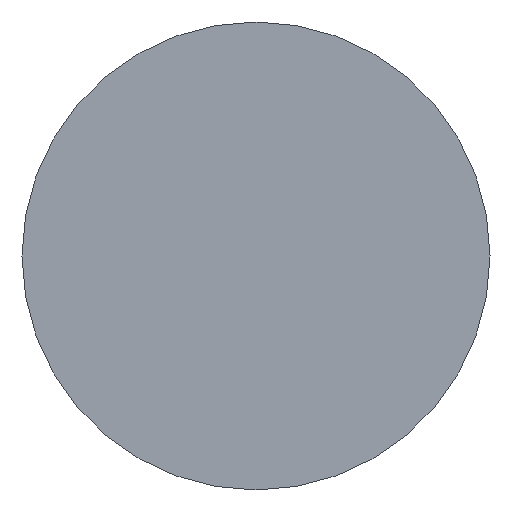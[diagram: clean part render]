
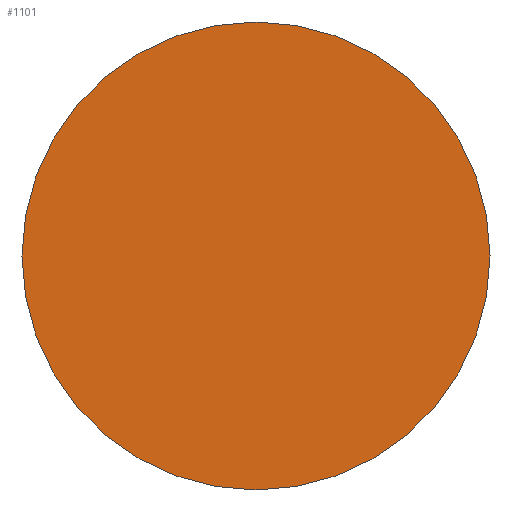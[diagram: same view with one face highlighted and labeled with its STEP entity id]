
A CAD part, top view. The second image highlights one B-rep face of the part: STEP entity #1101.
In plain terms, the highlighted planar face has unit normal (0, 0, 1).
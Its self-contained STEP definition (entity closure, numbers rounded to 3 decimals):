
#162 = VERTEX_POINT ( 'NONE', #1954 ) ;
#194 = CARTESIAN_POINT ( 'NONE',  ( 20., 0., 45. ) ) ;
#248 = DIRECTION ( 'NONE',  ( 0., 0., -1. ) ) ;
#629 = DIRECTION ( 'NONE',  ( 0., 0., -1. ) ) ;
#836 = FACE_OUTER_BOUND ( 'NONE', #1827, .T. ) ;
#874 = AXIS2_PLACEMENT_3D ( 'NONE', #194, #248, #2219 ) ;
#998 = CIRCLE ( 'NONE', #1587, 20. ) ;
#1045 = ORIENTED_EDGE ( 'NONE', *, *, #1127, .F. ) ;
#1101 = ADVANCED_FACE ( 'NONE', ( #836 ), #1412, .F. ) ;
#1127 = EDGE_CURVE ( 'NONE', #162, #162, #998, .T. ) ;
#1412 = PLANE ( 'NONE',  #874 ) ;
#1427 = CARTESIAN_POINT ( 'NONE',  ( 0., 0., 45. ) ) ;
#1587 = AXIS2_PLACEMENT_3D ( 'NONE', #1427, #629, #2417 ) ;
#1827 = EDGE_LOOP ( 'NONE', ( #1045 ) ) ;
#1954 = CARTESIAN_POINT ( 'NONE',  ( -20., 0., 45. ) ) ;
#2219 = DIRECTION ( 'NONE',  ( -1., 0., 0. ) ) ;
#2417 = DIRECTION ( 'NONE',  ( -1., 0., 0. ) ) ;
